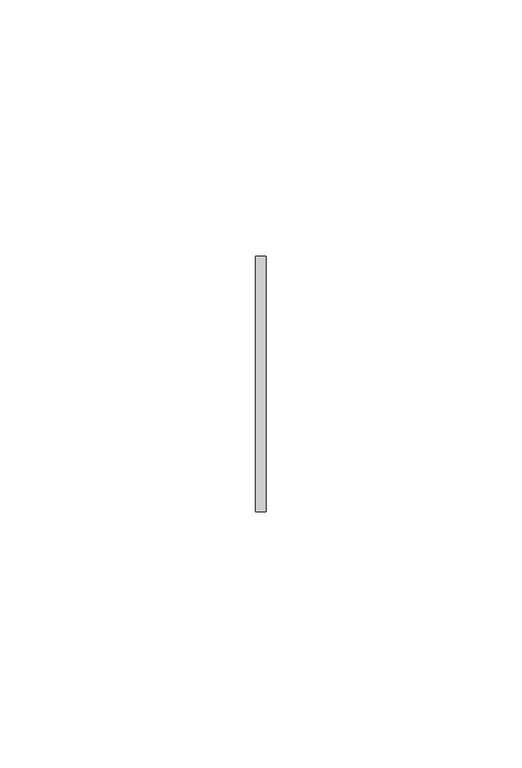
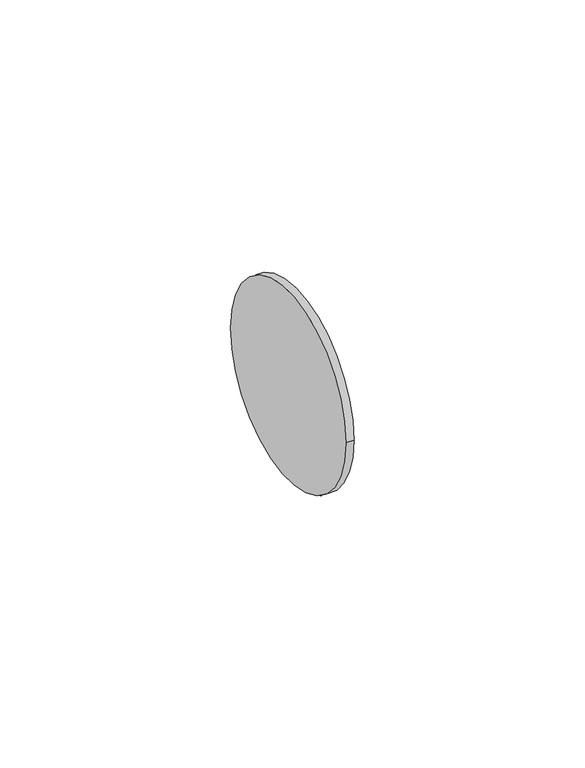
"""IFC4 building model written with IfcOpenShell, lengths in millimetres: duct fitting geometry, Prihoda Circular Cap : Prihoda Circular Cap."""

from ifc_helpers import new_model, si_unit, point, frame, origin, origin_2d, place, context, project, spatial, circle_curve, trimmed, segment, composite_curve, outline, extrude, source, transform, mapped, element, save


def duct_fitting_6a4d6866(model_context):
    return source(origin(), model_context, "Body", "SweptSolid", [
        extrude(outline(composite_curve([segment(trimmed(circle_curve(origin_2d(), 25.0), [point((-25.0, 0.0))], [point((25.0, 0.0))], False, "CARTESIAN"), True, "CONTINUOUS"), segment(trimmed(circle_curve(origin_2d(), 25.0), [point((25.0, 0.0))], [point((-25.0, 0.0))], False, "CARTESIAN"), True, "CONTINUOUS")], self_intersect=False)), frame((0.0, 0.0, 0.0), z_axis=(1.0, 0.0, 0.0), x_axis=(0.0, 1.0, 0.0)), (0.0, 0.0, 1.0), 2.0),
    ])


if __name__ == "__main__":
    model = new_model("IFC4")
    model_context = context("Model", 3, world=origin())
    ifc_project = project(units=[si_unit("LENGTHUNIT", "METRE", prefix="MILLI")], contexts=[model_context])
    site = spatial("IfcSite", under=ifc_project)
    building = spatial("IfcBuilding", under=site)
    placement = place(None, origin())
    duct_fitting_shape = duct_fitting_6a4d6866(model_context)
    element("IfcDuctFitting", 1, ObjectType="Prihoda Circular Cap : Prihoda Circular Cap", at=placement, inside=building, context=model_context, shape_type="MappedRepresentation", body=[
        mapped(duct_fitting_shape, transform((0.0, 0.0, 0.0), x_axis=(1.0, 0.0, 0.0), y_axis=(0.0, 1.0, 0.0), z_axis=(0.0, 0.0, 1.0))),
    ])
    save(model, "model.ifc")
